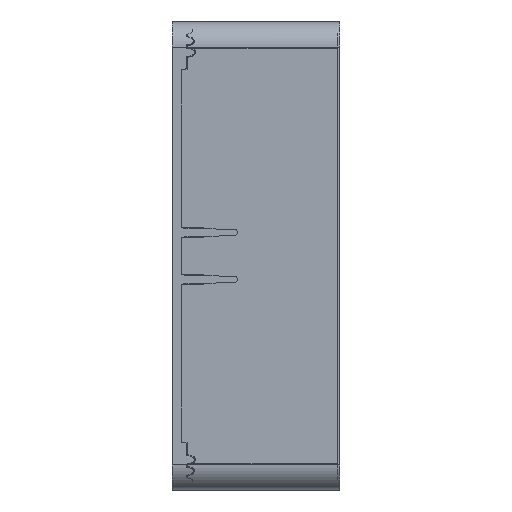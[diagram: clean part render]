
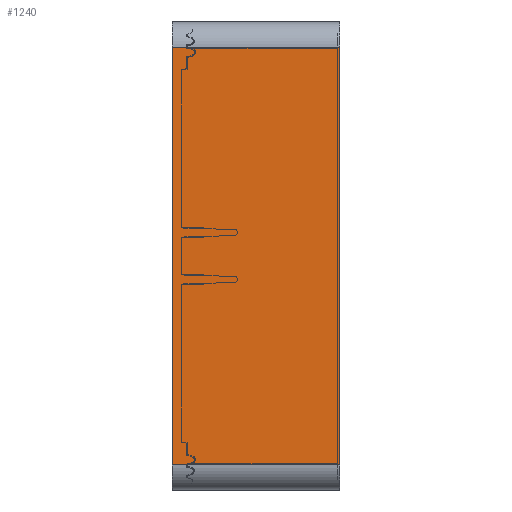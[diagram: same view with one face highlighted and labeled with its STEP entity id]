
A CAD part, left-side view. The second image highlights one B-rep face of the part: STEP entity #1240.
In plain terms, the highlighted planar face has unit normal (-1, 0, 0).
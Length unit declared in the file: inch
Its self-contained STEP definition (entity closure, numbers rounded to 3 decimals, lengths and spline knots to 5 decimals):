
#1240 = ADVANCED_FACE ( 'NONE', ( #13047 ), #19937, .T. ) ;
#1287 = CARTESIAN_POINT ( 'NONE',  ( -11.2029, -6.25, -7.78551 ) ) ;
#1751 = LINE ( 'NONE', #5666, #2995 ) ;
#1830 = VERTEX_POINT ( 'NONE', #9999 ) ;
#2995 = VECTOR ( 'NONE', #19552, 39.37008 ) ;
#3483 = VERTEX_POINT ( 'NONE', #20693 ) ;
#4246 = EDGE_CURVE ( 'NONE', #1830, #6547, #10766, .T. ) ;
#4549 = ORIENTED_EDGE ( 'NONE', *, *, #13594, .T. ) ;
#4635 = ORIENTED_EDGE ( 'NONE', *, *, #4246, .F. ) ;
#5065 = DIRECTION ( 'NONE',  ( 0., 1., 0. ) ) ;
#5666 = CARTESIAN_POINT ( 'NONE',  ( -11.2029, -6.25, -7.78551 ) ) ;
#6547 = VERTEX_POINT ( 'NONE', #15672 ) ;
#7291 = DIRECTION ( 'NONE',  ( 0., 0., 1. ) ) ;
#8324 = LINE ( 'NONE', #18977, #22912 ) ;
#9064 = CARTESIAN_POINT ( 'NONE',  ( -11.2029, 0., -7.78551 ) ) ;
#9522 = ORIENTED_EDGE ( 'NONE', *, *, #20673, .T. ) ;
#9999 = CARTESIAN_POINT ( 'NONE',  ( -11.2029, 0., -7.78551 ) ) ;
#10262 = EDGE_CURVE ( 'NONE', #3483, #1830, #1751, .T. ) ;
#10622 = CARTESIAN_POINT ( 'NONE',  ( -11.2029, -6.25, -7.78551 ) ) ;
#10766 = LINE ( 'NONE', #9064, #25390 ) ;
#11410 = AXIS2_PLACEMENT_3D ( 'NONE', #10622, #23230, #7291 ) ;
#12625 = EDGE_LOOP ( 'NONE', ( #4635, #12998, #4549, #9522 ) ) ;
#12998 = ORIENTED_EDGE ( 'NONE', *, *, #10262, .F. ) ;
#13047 = FACE_OUTER_BOUND ( 'NONE', #12625, .T. ) ;
#13530 = VERTEX_POINT ( 'NONE', #16878 ) ;
#13594 = EDGE_CURVE ( 'NONE', #3483, #13530, #15582, .T. ) ;
#14984 = VECTOR ( 'NONE', #15148, 39.37008 ) ;
#15148 = DIRECTION ( 'NONE',  ( 0., 0., 1. ) ) ;
#15582 = LINE ( 'NONE', #1287, #14984 ) ;
#15672 = CARTESIAN_POINT ( 'NONE',  ( -11.2029, 0., 7.78294 ) ) ;
#16878 = CARTESIAN_POINT ( 'NONE',  ( -11.2029, -6.25, 7.78294 ) ) ;
#18977 = CARTESIAN_POINT ( 'NONE',  ( -11.2029, -6.25, 7.78294 ) ) ;
#19552 = DIRECTION ( 'NONE',  ( 0., 1., 0. ) ) ;
#19937 = PLANE ( 'NONE',  #11410 ) ;
#20673 = EDGE_CURVE ( 'NONE', #13530, #6547, #8324, .T. ) ;
#20693 = CARTESIAN_POINT ( 'NONE',  ( -11.2029, -6.25, -7.78551 ) ) ;
#22912 = VECTOR ( 'NONE', #5065, 39.37008 ) ;
#23230 = DIRECTION ( 'NONE',  ( -1., 0., 0. ) ) ;
#24959 = DIRECTION ( 'NONE',  ( 0., 0., 1. ) ) ;
#25390 = VECTOR ( 'NONE', #24959, 39.37008 ) ;
